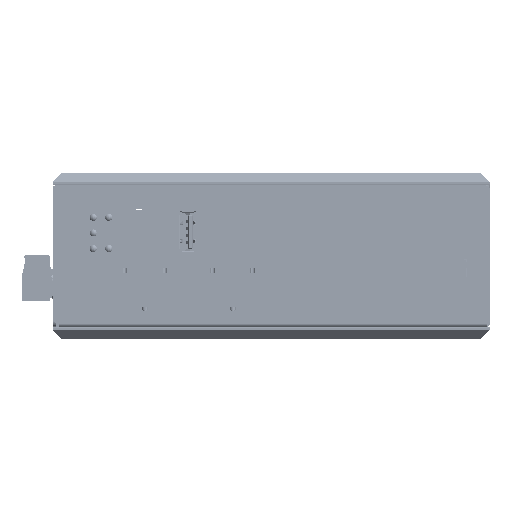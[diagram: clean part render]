
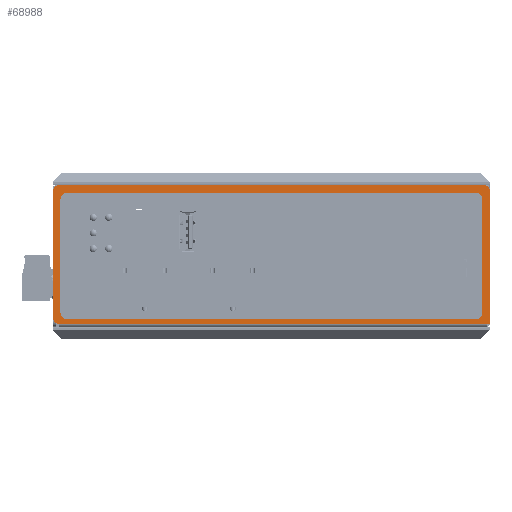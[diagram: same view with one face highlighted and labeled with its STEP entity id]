
A CAD part, front view. The second image highlights one B-rep face of the part: STEP entity #68988.
In plain terms, the highlighted planar face has unit normal (0, -1, 0).
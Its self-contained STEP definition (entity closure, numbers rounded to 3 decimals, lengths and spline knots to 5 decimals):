
#6617=CIRCLE('',#77901,0.002);
#6618=CIRCLE('',#77904,0.002);
#6619=CIRCLE('',#77907,0.002);
#6620=CIRCLE('',#77910,0.002);
#6623=CIRCLE('',#77917,0.002);
#6624=CIRCLE('',#77918,0.002);
#6625=CIRCLE('',#77919,0.002);
#23707=ORIENTED_EDGE('',*,*,#33525,.T.);
#23708=ORIENTED_EDGE('',*,*,#33526,.T.);
#23709=ORIENTED_EDGE('',*,*,#33527,.T.);
#23710=ORIENTED_EDGE('',*,*,#33528,.T.);
#23711=ORIENTED_EDGE('',*,*,#33529,.T.);
#23712=ORIENTED_EDGE('',*,*,#33530,.T.);
#23713=ORIENTED_EDGE('',*,*,#33531,.T.);
#23714=ORIENTED_EDGE('',*,*,#33532,.T.);
#23715=ORIENTED_EDGE('',*,*,#33517,.F.);
#23716=ORIENTED_EDGE('',*,*,#33519,.T.);
#23717=ORIENTED_EDGE('',*,*,#33521,.F.);
#23718=ORIENTED_EDGE('',*,*,#33522,.T.);
#23719=ORIENTED_EDGE('',*,*,#33509,.F.);
#23720=ORIENTED_EDGE('',*,*,#33511,.T.);
#23721=ORIENTED_EDGE('',*,*,#33513,.F.);
#23722=ORIENTED_EDGE('',*,*,#33515,.T.);
#33509=EDGE_CURVE('',#40499,#40498,#6617,.T.);
#33511=EDGE_CURVE('',#40499,#40500,#46767,.T.);
#33513=EDGE_CURVE('',#40501,#40500,#6618,.T.);
#33515=EDGE_CURVE('',#40501,#40502,#46770,.T.);
#33517=EDGE_CURVE('',#40503,#40502,#6619,.T.);
#33519=EDGE_CURVE('',#40503,#40504,#46773,.T.);
#33521=EDGE_CURVE('',#40505,#40504,#6620,.T.);
#33522=EDGE_CURVE('',#40505,#40498,#46775,.T.);
#33525=EDGE_CURVE('',#40508,#40509,#46776,.T.);
#33526=EDGE_CURVE('',#40509,#40510,#6623,.T.);
#33527=EDGE_CURVE('',#40510,#40511,#46777,.T.);
#33528=EDGE_CURVE('',#40511,#40512,#6624,.T.);
#33529=EDGE_CURVE('',#40512,#40513,#46778,.T.);
#33530=EDGE_CURVE('',#40513,#40514,#46779,.T.);
#33531=EDGE_CURVE('',#40514,#40515,#46780,.T.);
#33532=EDGE_CURVE('',#40515,#40508,#6625,.T.);
#40498=VERTEX_POINT('',#122988);
#40499=VERTEX_POINT('',#122990);
#40500=VERTEX_POINT('',#122994);
#40501=VERTEX_POINT('',#122998);
#40502=VERTEX_POINT('',#123002);
#40503=VERTEX_POINT('',#123006);
#40504=VERTEX_POINT('',#123010);
#40505=VERTEX_POINT('',#123014);
#40508=VERTEX_POINT('',#123026);
#40509=VERTEX_POINT('',#123027);
#40510=VERTEX_POINT('',#123029);
#40511=VERTEX_POINT('',#123031);
#40512=VERTEX_POINT('',#123033);
#40513=VERTEX_POINT('',#123035);
#40514=VERTEX_POINT('',#123037);
#40515=VERTEX_POINT('',#123039);
#46767=LINE('',#122995,#52977);
#46770=LINE('',#123003,#52980);
#46773=LINE('',#123011,#52983);
#46775=LINE('',#123017,#52985);
#46776=LINE('',#123025,#52986);
#46777=LINE('',#123030,#52987);
#46778=LINE('',#123034,#52988);
#46779=LINE('',#123036,#52989);
#46780=LINE('',#123038,#52990);
#52977=VECTOR('',#96766,1.);
#52980=VECTOR('',#96775,1.);
#52983=VECTOR('',#96784,1.);
#52985=VECTOR('',#96792,1.);
#52986=VECTOR('',#96803,1.);
#52987=VECTOR('',#96806,1.);
#52988=VECTOR('',#96809,1.);
#52989=VECTOR('',#96810,1.);
#52990=VECTOR('',#96811,1.);
#58039=EDGE_LOOP('',(#23707,#23708,#23709,#23710,#23711,#23712,#23713,#23714));
#58040=EDGE_LOOP('',(#23715,#23716,#23717,#23718,#23719,#23720,#23721,#23722));
#63141=FACE_BOUND('',#58039,.T.);
#63142=FACE_BOUND('',#58040,.T.);
#65479=PLANE('',#77916);
#68988=ADVANCED_FACE('',(#63141,#63142),#65479,.T.);
#77901=AXIS2_PLACEMENT_3D('',#122991,#96761,#96762);
#77904=AXIS2_PLACEMENT_3D('',#122999,#96770,#96771);
#77907=AXIS2_PLACEMENT_3D('',#123007,#96779,#96780);
#77910=AXIS2_PLACEMENT_3D('',#123015,#96788,#96789);
#77916=AXIS2_PLACEMENT_3D('',#123024,#96801,#96802);
#77917=AXIS2_PLACEMENT_3D('',#123028,#96804,#96805);
#77918=AXIS2_PLACEMENT_3D('',#123032,#96807,#96808);
#77919=AXIS2_PLACEMENT_3D('',#123040,#96812,#96813);
#96761=DIRECTION('',(0.,-1.,0.));
#96762=DIRECTION('',(-1.,0.,0.));
#96766=DIRECTION('',(0.,0.,1.));
#96770=DIRECTION('',(0.,-1.,0.));
#96771=DIRECTION('',(0.,0.,1.));
#96775=DIRECTION('',(1.,0.,0.));
#96779=DIRECTION('',(0.,-1.,0.));
#96780=DIRECTION('',(1.,0.,0.));
#96784=DIRECTION('',(0.,0.,-1.));
#96788=DIRECTION('',(0.,-1.,0.));
#96789=DIRECTION('',(0.,0.,-1.));
#96792=DIRECTION('',(-1.,0.,0.));
#96801=DIRECTION('',(0.,-1.,0.));
#96802=DIRECTION('',(1.,0.,0.));
#96803=DIRECTION('',(-1.,0.,0.));
#96804=DIRECTION('',(0.,-1.,0.));
#96805=DIRECTION('',(0.,0.,1.));
#96806=DIRECTION('',(0.,0.,-1.));
#96807=DIRECTION('',(0.,-1.,0.));
#96808=DIRECTION('',(-1.,0.,0.));
#96809=DIRECTION('',(1.,0.,0.));
#96810=DIRECTION('',(1.,0.,0.));
#96811=DIRECTION('',(0.,0.,1.));
#96812=DIRECTION('',(0.,-1.,0.));
#96813=DIRECTION('',(1.,0.,0.));
#122988=CARTESIAN_POINT('',(-0.067,-0.0489,0.0025));
#122990=CARTESIAN_POINT('',(-0.069,-0.0489,0.0045));
#122991=CARTESIAN_POINT('',(-0.067,-0.0489,0.0045));
#122994=CARTESIAN_POINT('',(-0.069,-0.0489,0.0415));
#122995=CARTESIAN_POINT('',(-0.069,-0.0489,0.0045));
#122998=CARTESIAN_POINT('',(-0.067,-0.0489,0.0435));
#122999=CARTESIAN_POINT('',(-0.067,-0.0489,0.0415));
#123002=CARTESIAN_POINT('',(0.066,-0.0489,0.0435));
#123003=CARTESIAN_POINT('',(-0.067,-0.0489,0.0435));
#123006=CARTESIAN_POINT('',(0.068,-0.0489,0.0415));
#123007=CARTESIAN_POINT('',(0.066,-0.0489,0.0415));
#123010=CARTESIAN_POINT('',(0.068,-0.0489,0.0045));
#123011=CARTESIAN_POINT('',(0.068,-0.0489,0.0415));
#123014=CARTESIAN_POINT('',(0.066,-0.0489,0.0025));
#123015=CARTESIAN_POINT('',(0.066,-0.0489,0.0045));
#123017=CARTESIAN_POINT('',(0.066,-0.0489,0.0025));
#123024=CARTESIAN_POINT('',(-0.03647,-0.0489,0.));
#123025=CARTESIAN_POINT('',(0.0685,-0.0489,0.046));
#123026=CARTESIAN_POINT('',(0.0685,-0.0489,0.046));
#123027=CARTESIAN_POINT('',(-0.0695,-0.0489,0.046));
#123028=CARTESIAN_POINT('',(-0.0695,-0.0489,0.044));
#123029=CARTESIAN_POINT('',(-0.0715,-0.0489,0.044));
#123030=CARTESIAN_POINT('',(-0.0715,-0.0489,0.044));
#123031=CARTESIAN_POINT('',(-0.0715,-0.0489,0.003));
#123032=CARTESIAN_POINT('',(-0.0695,-0.0489,0.003));
#123033=CARTESIAN_POINT('',(-0.0695,-0.0489,0.001));
#123034=CARTESIAN_POINT('',(-0.0695,-0.0489,0.001));
#123035=CARTESIAN_POINT('',(0.0695,-0.0489,0.001));
#123036=CARTESIAN_POINT('',(0.0695,-0.0489,0.001));
#123037=CARTESIAN_POINT('',(0.0705,-0.0489,0.001));
#123038=CARTESIAN_POINT('',(0.0705,-0.0489,0.001));
#123039=CARTESIAN_POINT('',(0.0705,-0.0489,0.044));
#123040=CARTESIAN_POINT('',(0.0685,-0.0489,0.044));
